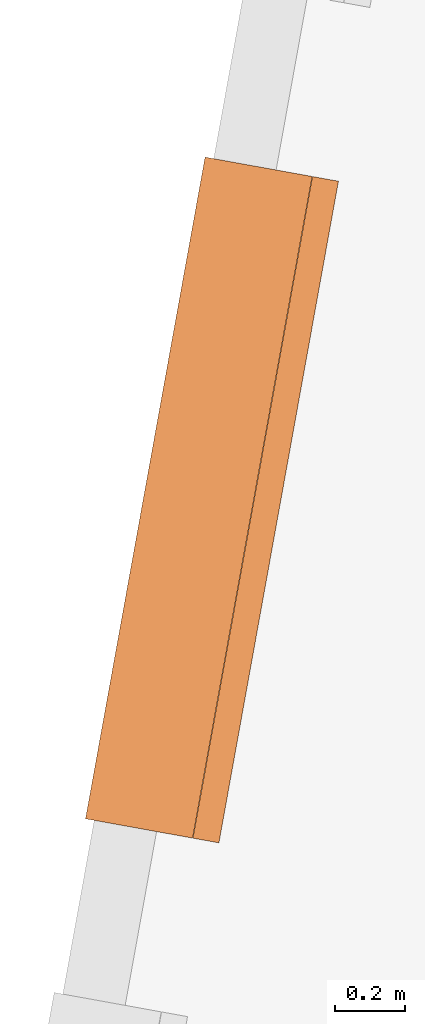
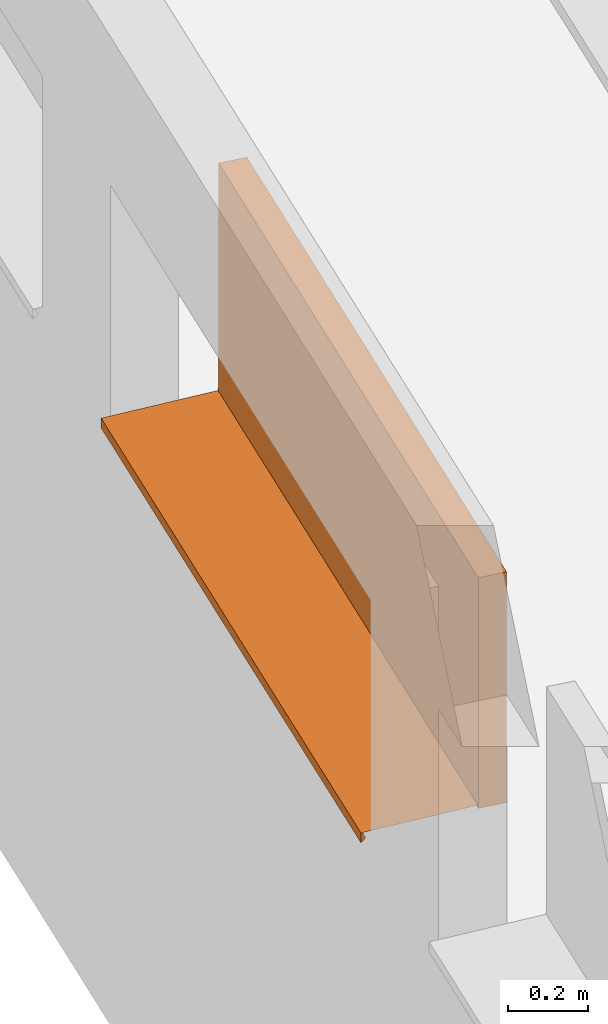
# One storey, part 46 of 79: 1 proxy.
"""IFC2X3 building model written with IfcOpenShell, lengths in metres."""

from ifc_helpers import new_model, entity, si_unit, converted_unit, derived_unit, money_unit, direction, frame, origin_with_axes, place, context, subcontext, project, spatial, open_shell, faceted_brep, surface_model, source, transform, mapped, material, type_object, element, save


model = new_model("IFC2X3")

# Units and contexts
model_context = context("Model", 3, precision=1e-05, world=origin_with_axes(), true_north=direction((0.0, 1.0)))
body_context = subcontext(model_context, "Body", "Model", "MODEL_VIEW")
ifc_project = project(units=[si_unit("LENGTHUNIT", "METRE"), si_unit("AREAUNIT", "SQUARE_METRE"), si_unit("VOLUMEUNIT", "CUBIC_METRE"), converted_unit("PLANEANGLEUNIT", "DEGREE", entity("IfcPlaneAngleMeasure", 0.0174532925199), si_unit("PLANEANGLEUNIT", "RADIAN"), dimensions=[0, 0, 0, 0, 0, 0, 0]), money_unit("CHF"), converted_unit("TIMEUNIT", "Year", entity("IfcTimeMeasure", 31556926.0), si_unit("TIMEUNIT", "SECOND"), dimensions=[0, 0, 1, 0, 0, 0, 0]), si_unit("MASSUNIT", "GRAM", prefix="KILO"), si_unit("THERMODYNAMICTEMPERATUREUNIT", "DEGREE_CELSIUS"), si_unit("LUMINOUSINTENSITYUNIT", "LUMEN"), si_unit("ENERGYUNIT", "JOULE", prefix="MEGA"), derived_unit("THERMALCONDUCTANCEUNIT", [(si_unit("POWERUNIT", "WATT"), 1), (si_unit("LENGTHUNIT", "METRE"), -1), (si_unit("THERMODYNAMICTEMPERATUREUNIT", "KELVIN"), -1)]), derived_unit("SPECIFICHEATCAPACITYUNIT", [(si_unit("ENERGYUNIT", "JOULE"), 1), (si_unit("MASSUNIT", "GRAM", prefix="KILO"), -1), (si_unit("THERMODYNAMICTEMPERATUREUNIT", "KELVIN"), -1)]), derived_unit("MASSDENSITYUNIT", [(si_unit("MASSUNIT", "GRAM", prefix="KILO"), 1), (si_unit("VOLUMEUNIT", "CUBIC_METRE"), -1)])], contexts=[model_context])

# Site, building, storey
site_placement = place(None, frame((0.0, 0.0, 0.0), z_axis=(0.0, 0.0, 1.0), x_axis=(-0.177771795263, -0.984071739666, 0.0)))
site = spatial("IfcSite", under=ifc_project, at=site_placement, Name="Site", CompositionType="ELEMENT")
building_placement = place(site_placement, origin_with_axes())
building = spatial("IfcBuilding", under=site, at=building_placement, Name="Bâtiment", CompositionType="ELEMENT")
storey_placement = place(building_placement, origin_with_axes())
storey = spatial("IfcBuildingStorey", under=building, at=storey_placement, Name="RDC", CompositionType="ELEMENT", Elevation=0.0)

# Proxy
ifc_material = material(Name="Matériau de construction IFC")
building_element_proxy_type = type_object("IfcBuildingElementProxyType", Name="Fenêtre variable 21", PredefinedType="NOTDEFINED")
shared_shape = source(origin_with_axes(), body_context, "Body", "SurfaceModel", [
    surface_model("IfcShellBasedSurfaceModel", [(0.0, 0.284, 0.02), (0.0, 0.284, 0.01), (1.91, 0.284, 0.01), (1.91, 0.284, 0.02), (0.0, -0.025, -0.00087719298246), (1.91, -0.025, -0.00087719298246), (0.0, -0.025, -0.0308771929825), (1.91, -0.025, -0.0308771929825), (0.0, -0.0125, -0.0183771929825), (1.91, -0.0125, -0.0183771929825)], [open_shell([[[0, 1, 2, 3]], [[1, 4, 5, 2]], [[4, 6, 7, 5]], [[6, 8, 9, 7]]])]),
    faceted_brep([(0.075, 0.285, 0.625), (0.075, 0.36, 0.625), (0.0, 0.36, 0.625), (0.0, 0.285, 0.625), (0.075, 0.285, 0.075), (0.075, 0.36, 0.075), (0.0, 0.36, 0.075), (0.0, 0.285, 0.075)], [[[0, 1, 2, 3]], [[4, 5, 1, 0]], [[1, 5, 6, 2]], [[3, 2, 6, 7]], [[0, 3, 7, 4]], [[7, 6, 5, 4]]]),
    faceted_brep([(1.835, 0.285, 0.075), (1.835, 0.36, 0.075), (1.91, 0.36, 0.075), (1.91, 0.285, 0.075), (1.835, 0.285, 0.625), (1.835, 0.36, 0.625), (1.91, 0.36, 0.625), (1.91, 0.285, 0.625)], [[[0, 1, 2, 3]], [[4, 5, 1, 0]], [[1, 5, 6, 2]], [[3, 2, 6, 7]], [[0, 3, 7, 4]], [[7, 6, 5, 4]]]),
    faceted_brep([(0.075, 0.285, 0.075), (0.075, 0.36, 0.075), (0.0, 0.36, 0.075), (0.0, 0.285, 0.075), (1.835, 0.285, 0.075), (1.835, 0.36, 0.075), (1.91, 0.36, 0.075), (1.91, 0.36, 0.0), (0.0, 0.36, 0.0), (0.0, 0.285, 0.0), (1.91, 0.285, 0.0), (1.91, 0.285, 0.075)], [[[0, 1, 2, 3]], [[4, 5, 1, 0]], [[1, 5, 6, 7, 8, 2]], [[3, 2, 8, 9]], [[0, 3, 9, 10, 11, 4]], [[11, 6, 5, 4]], [[10, 7, 6, 11]], [[9, 8, 7, 10]]]),
    faceted_brep([(1.835, 0.285, 0.625), (1.835, 0.36, 0.625), (1.91, 0.36, 0.625), (1.91, 0.285, 0.625), (0.075, 0.285, 0.625), (0.075, 0.36, 0.625), (0.0, 0.36, 0.625), (0.0, 0.36, 0.7), (1.91, 0.36, 0.7), (1.91, 0.285, 0.7), (0.0, 0.285, 0.7), (0.0, 0.285, 0.625)], [[[0, 1, 2, 3]], [[4, 5, 1, 0]], [[1, 5, 6, 7, 8, 2]], [[3, 2, 8, 9]], [[0, 3, 9, 10, 11, 4]], [[11, 6, 5, 4]], [[10, 7, 6, 11]], [[9, 8, 7, 10]]]),
    surface_model("IfcShellBasedSurfaceModel", [(0.075, 0.285, 0.075), (1.835, 0.285, 0.075), (1.835, 0.285, 0.625), (0.075, 0.285, 0.625)], [open_shell([[[0, 1, 2, 3]]])]),
    surface_model("IfcShellBasedSurfaceModel", [(0.075, 0.305, 0.075), (0.075, 0.305, 0.625), (1.835, 0.305, 0.625), (1.835, 0.305, 0.075)], [open_shell([[[0, 1, 2, 3]]])]),
])
proxy_placement = place(storey_placement, frame((115.828174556, -159.217107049, 1.7), z_axis=(0.0, 0.0, 1.0), x_axis=(1.0, 0.0, 0.0)))
element("IfcBuildingElementProxy", 1, at=proxy_placement, inside=storey, type_object=building_element_proxy_type, material=ifc_material, Name="Fen couloir", context=body_context, shape_type="MappedRepresentation", body=[
    mapped(shared_shape, transform((0.0, 0.0, 0.0))),
])

save(model, "model.ifc")
